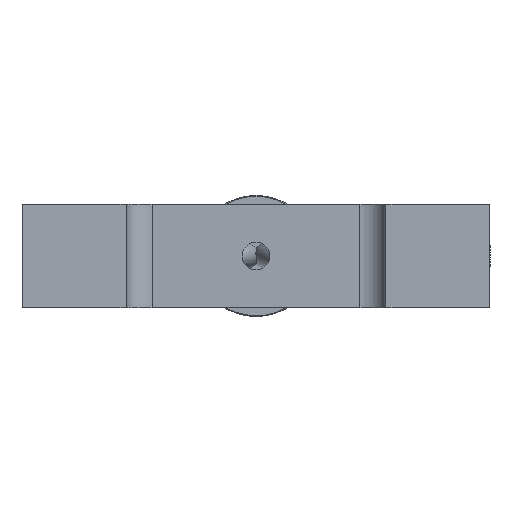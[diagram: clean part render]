
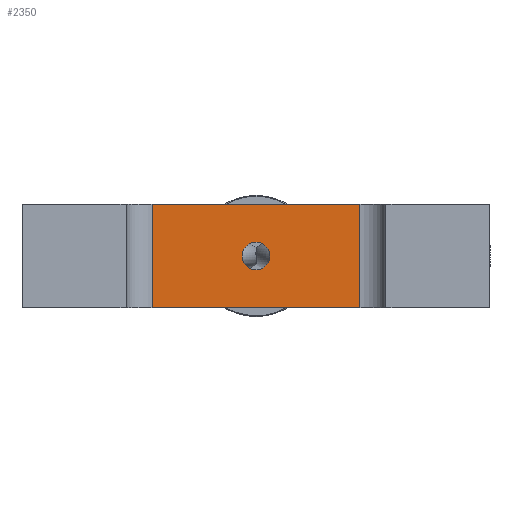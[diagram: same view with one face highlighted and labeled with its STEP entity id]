
A CAD part, left-side view. The second image highlights one B-rep face of the part: STEP entity #2350.
In plain terms, the highlighted planar face has unit normal (-1, 0, 0).
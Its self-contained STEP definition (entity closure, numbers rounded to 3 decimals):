
#112=LINE($,#4263,#200);
#114=LINE($,#4269,#202);
#115=LINE($,#4271,#203);
#116=LINE($,#4272,#204);
#200=VECTOR($,#3333,12.);
#202=VECTOR($,#3339,24.);
#203=VECTOR($,#3340,12.);
#204=VECTOR($,#3341,24.);
#307=PLANE($,#2666);
#402=FACE_BOUND($,#790,.T.);
#403=FACE_BOUND($,#791,.T.);
#790=EDGE_LOOP($,(#1908));
#791=EDGE_LOOP($,(#1909,#1910,#1911,#1912));
#958=CIRCLE($,#2655,1.6);
#1146=VERTEX_POINT($,#4244);
#1153=VERTEX_POINT($,#4260);
#1154=VERTEX_POINT($,#4262);
#1156=VERTEX_POINT($,#4268);
#1157=VERTEX_POINT($,#4270);
#1404=EDGE_CURVE($,#1146,#1146,#958,.T.);
#1411=EDGE_CURVE($,#1153,#1154,#112,.T.);
#1414=EDGE_CURVE($,#1153,#1156,#114,.T.);
#1415=EDGE_CURVE($,#1157,#1156,#115,.T.);
#1416=EDGE_CURVE($,#1157,#1154,#116,.T.);
#1908=ORIENTED_EDGE($,*,*,#1404,.T.);
#1909=ORIENTED_EDGE($,*,*,#1411,.F.);
#1910=ORIENTED_EDGE($,*,*,#1414,.T.);
#1911=ORIENTED_EDGE($,*,*,#1415,.F.);
#1912=ORIENTED_EDGE($,*,*,#1416,.T.);
#2350=ADVANCED_FACE($,(#402,#403),#307,.T.);
#2655=AXIS2_PLACEMENT_3D($,#4245,#3313,#3314);
#2666=AXIS2_PLACEMENT_3D($,#4267,#3337,#3338);
#3313=DIRECTION('center_axis',(1.,0.,0.));
#3314=DIRECTION('ref_axis',(0.,0.,-1.));
#3333=DIRECTION($,(0.,0.,1.));
#3337=DIRECTION('center_axis',(-1.,0.,0.));
#3338=DIRECTION('ref_axis',(0.,0.,1.));
#3339=DIRECTION($,(0.,-1.,0.));
#3340=DIRECTION($,(0.,0.,-1.));
#3341=DIRECTION($,(0.,1.,0.));
#4244=CARTESIAN_POINT('',(22.,0.,7.6));
#4245=CARTESIAN_POINT('Origin',(22.,0.,6.));
#4260=CARTESIAN_POINT('',(22.,12.,0.));
#4262=CARTESIAN_POINT('',(22.,12.,12.));
#4263=CARTESIAN_POINT($,(22.,12.,0.));
#4267=CARTESIAN_POINT('Origin',(22.,-15.,0.));
#4268=CARTESIAN_POINT('',(22.,-12.,0.));
#4269=CARTESIAN_POINT($,(22.,15.,0.));
#4270=CARTESIAN_POINT('',(22.,-12.,12.));
#4271=CARTESIAN_POINT($,(22.,-12.,0.));
#4272=CARTESIAN_POINT($,(22.,15.,12.));
